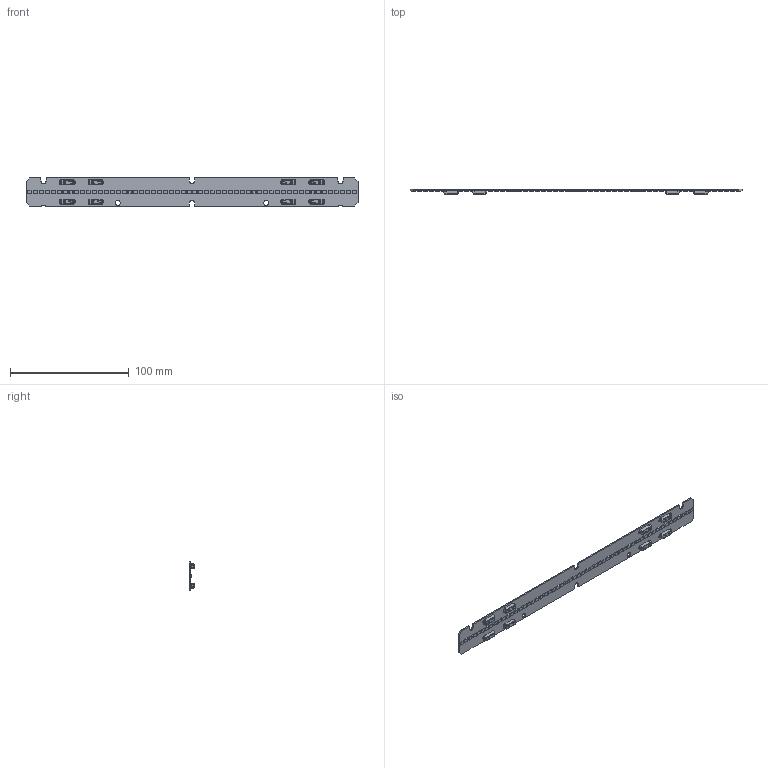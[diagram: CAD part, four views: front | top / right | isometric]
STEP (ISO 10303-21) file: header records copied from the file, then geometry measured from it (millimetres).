
FILE_DESCRIPTION(/* description */ ('Unknown'),/* implementation_level */ '2;1');
FILE_NAME(/* name */ 'LinLED 280x24mm 2x1000lm 827-865 2x4C 42V Opt G12',/* time_stamp */ '2020-06-30T11:35:46+02:00',/* author */ ('Unknown'),/* organization */ ('Unknown'),/* preprocessor_version */ 'ST-DEVELOPER v16.7',/* originating_system */ 'Solid Edge',/* authorisation */ 'Unknown');
FILE_SCHEMA (('AP203_CONFIGURATION_CONTROLLED_3D_DESIGN_OF_MECHANICAL_PARTS_AND_ASSEMBLIES_MIM_LF { 1 0 10303 203 3 1 4 }','AUTOMOTIVE_DESIGN {1 0 10303 214 3 1 1}'));
Products named in the file (1): LinLED 280x24mm 2x1000lm 827-865 2x4C 42V Opt G12
Bounding box: 279.5 x 4.45 x 24 mm (x, y, z)
Volume: 7885.8 mm3; surface area: 15934.8 mm2
Topology: 1 solids, 1 shells, 2824 faces, 7306 edges, 4596 vertices
Faces by surface type: plane 1666, cylinder 518, bspline 416, cone 120, sphere 64, torus 40
Full cylindrical faces by diameter (mm): 4.3 x2
Entity records: 115915 total; most frequent: CARTESIAN_POINT 31741, ORIENTED_EDGE 14416, DIRECTION 11462, EDGE_CURVE 7208, LINE 4748, VECTOR 4748, VERTEX_POINT 4572, AXIS2_PLACEMENT_3D 3357
